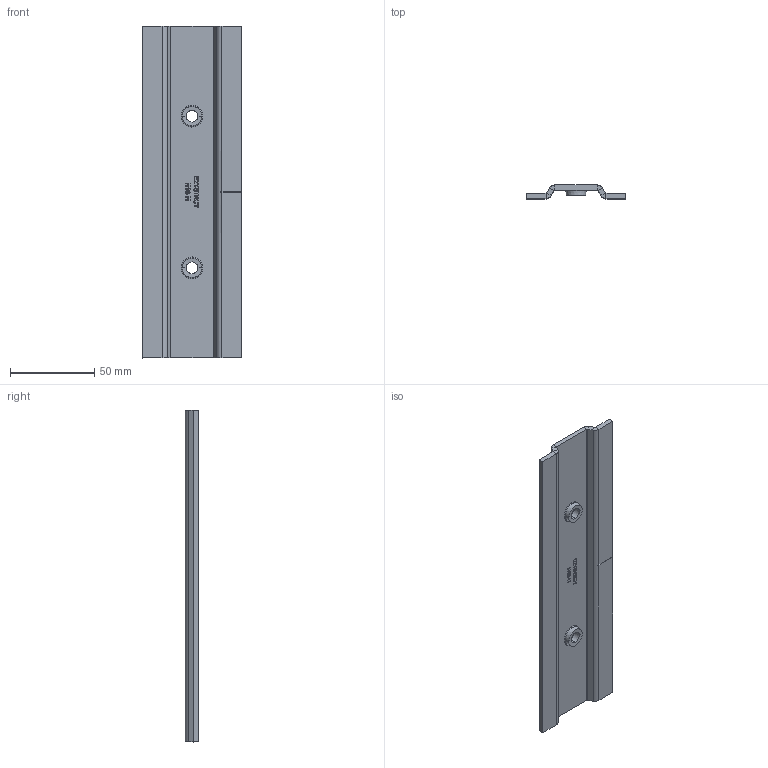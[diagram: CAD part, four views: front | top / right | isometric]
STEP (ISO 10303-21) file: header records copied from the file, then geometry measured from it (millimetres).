
FILE_DESCRIPTION (( 'STEP AP203' ), '1' );
FILE_NAME ('N1 SPLICE PLATE.STEP', '2024-09-04T21:50:25', ( '' ), ( '' ), 'SwSTEP 2.0', 'SolidWorks 2023', '' );
FILE_SCHEMA (( 'CONFIG_CONTROL_DESIGN' ));
Length unit declared in the file: millimetre
Products named in the file (1): N1 SPLICE PLATE
Bounding box: 59 x 8 x 197 mm (x, y, z)
Volume: 37947.7 mm3; surface area: 27064.5 mm2
Topology: 1 solids, 1 shells, 220 faces, 572 edges, 368 vertices
Faces by surface type: plane 147, bspline 45, cylinder 12, cone 8, torus 8
Entity records: 9127 total; most frequent: CARTESIAN_POINT 3932, ORIENTED_EDGE 1144, DIRECTION 888, EDGE_CURVE 572, LINE 424, VECTOR 424, VERTEX_POINT 368, EDGE_LOOP 238
